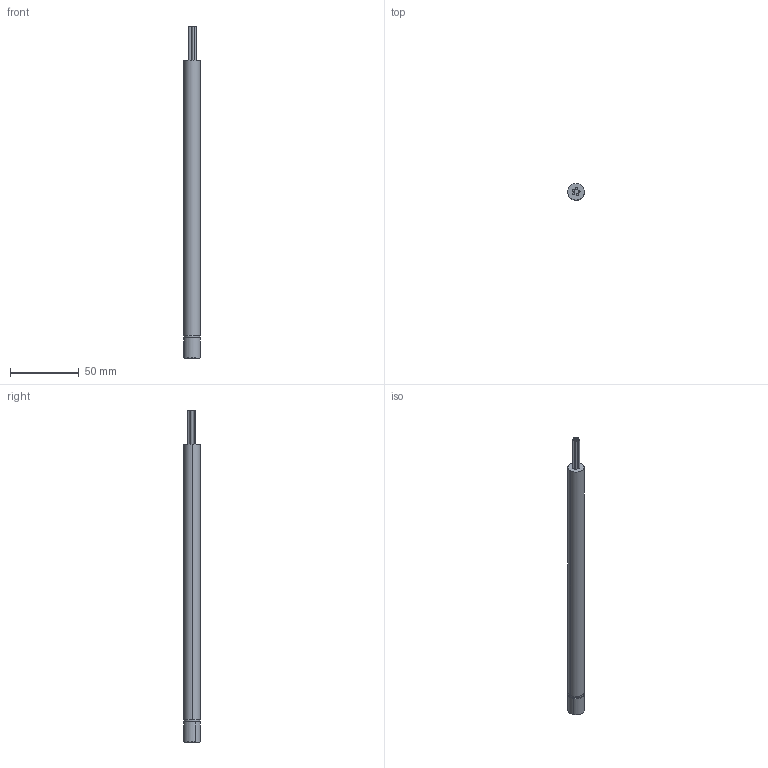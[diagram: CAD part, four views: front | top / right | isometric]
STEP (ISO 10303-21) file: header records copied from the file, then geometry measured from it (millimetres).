
FILE_DESCRIPTION (( 'STEP AP203' ), '1' );
FILE_NAME ('O2S-FR-T6-SH.STEP', '2019-02-11T10:36:30', ( '' ), ( '' ), 'SwSTEP 2.0', 'SolidWorks 2018', '' );
FILE_SCHEMA (( 'CONFIG_CONTROL_DESIGN' ));
Length unit declared in the file: millimetre
Products named in the file (1): O2S-FR-T6-SH
Bounding box: 12 x 12 x 241.44 mm (x, y, z)
Volume: 24681.7 mm3; surface area: 8991.1 mm2
Topology: 1 solids, 1 shells, 34 faces, 68 edges, 42 vertices
Faces by surface type: cylinder 16, cone 10, plane 8
Entity records: 971 total; most frequent: DIRECTION 180, CARTESIAN_POINT 145, ORIENTED_EDGE 136, AXIS2_PLACEMENT_3D 77, EDGE_CURVE 68, CIRCLE 42, VERTEX_POINT 42, EDGE_LOOP 40
